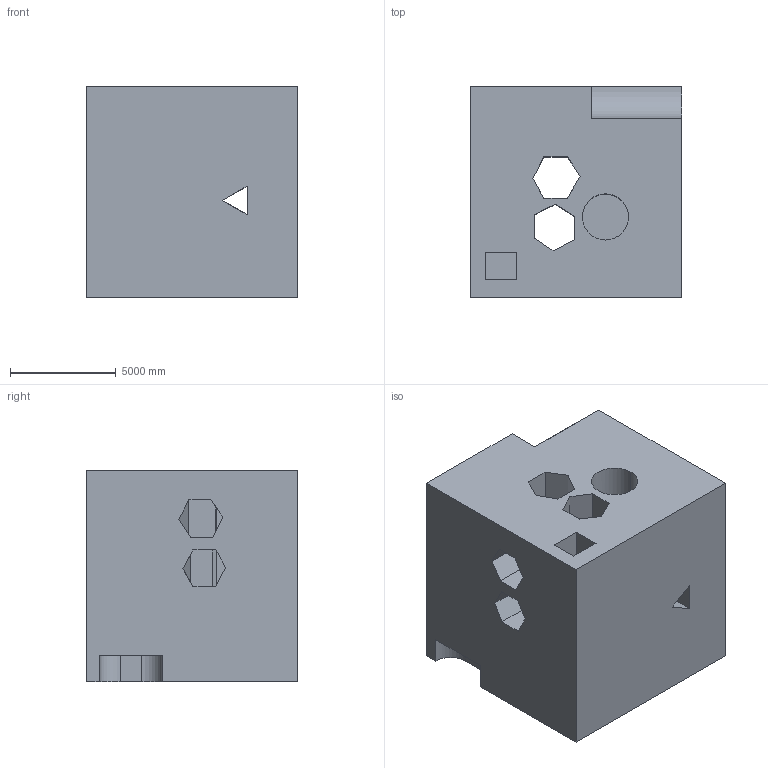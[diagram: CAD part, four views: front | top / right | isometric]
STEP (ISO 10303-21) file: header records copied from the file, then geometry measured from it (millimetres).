
FILE_DESCRIPTION (( 'STEP AP203' ), '1' );
FILE_NAME ('902.STEP', '2022-07-29T14:08:47', ( 'user' ), ( '' ), 'SwSTEP 2.0', 'SolidWorks 2021', '' );
FILE_SCHEMA (( 'CONFIG_CONTROL_DESIGN' ));
Length unit declared in the file: centimetre
Products named in the file (1): 902
Bounding box: 10000 x 10000 x 10000 mm (x, y, z)
Volume: 831859480383.2 mm3; surface area: 924597480.9 mm2
Topology: 1 solids, 1 shells, 62 faces, 192 edges, 128 vertices
Faces by surface type: plane 57, cylinder 5
Entity records: 2215 total; most frequent: CARTESIAN_POINT 395, ORIENTED_EDGE 384, DIRECTION 324, EDGE_CURVE 192, LINE 178, VECTOR 178, VERTEX_POINT 128, EDGE_LOOP 74
